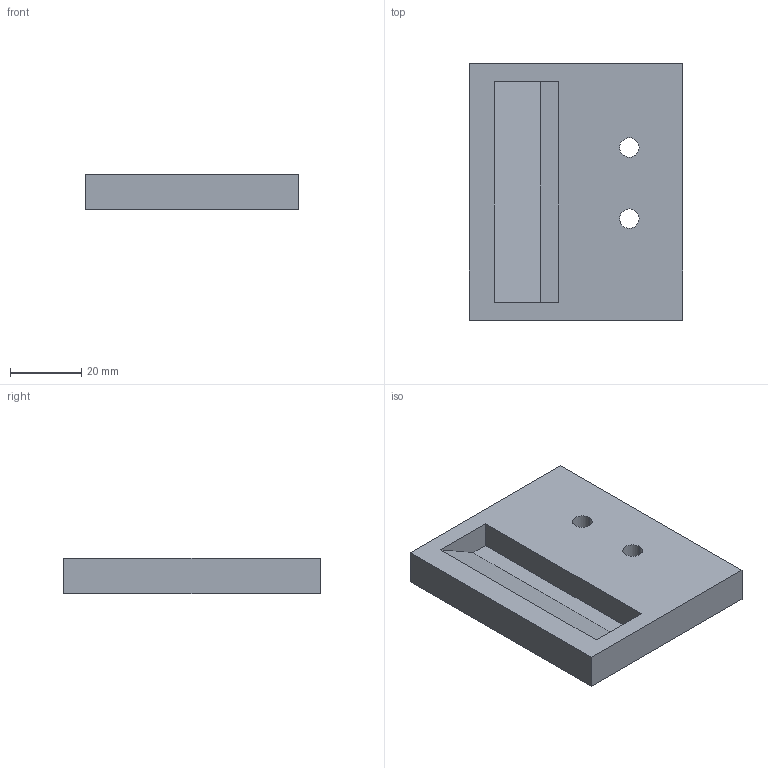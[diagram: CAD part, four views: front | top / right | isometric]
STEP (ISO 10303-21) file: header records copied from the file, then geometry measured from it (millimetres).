
FILE_DESCRIPTION (( 'STEP AP214' ), '1' );
FILE_NAME ('GZ28.09_V1賑雄菁釱-03.STEP', '2021-04-11T16:39:16', ( 'hp' ), ( '' ), 'SwSTEP 2.0', 'SolidWorks 2017', '' );
FILE_SCHEMA (( 'AUTOMOTIVE_DESIGN' ));
Length unit declared in the file: millimetre
Products named in the file (1): GZ28.09_V1賑雄菁釱-03
Bounding box: 60 x 72 x 10 mm (x, y, z)
Volume: 36752.8 mm3; surface area: 12453.7 mm2
Topology: 1 solids, 1 shells, 21 faces, 48 edges, 32 vertices
Faces by surface type: plane 13, cylinder 8
Entity records: 640 total; most frequent: DIRECTION 108, CARTESIAN_POINT 102, ORIENTED_EDGE 96, EDGE_CURVE 48, AXIS2_PLACEMENT_3D 38, VERTEX_POINT 32, LINE 32, VECTOR 32
